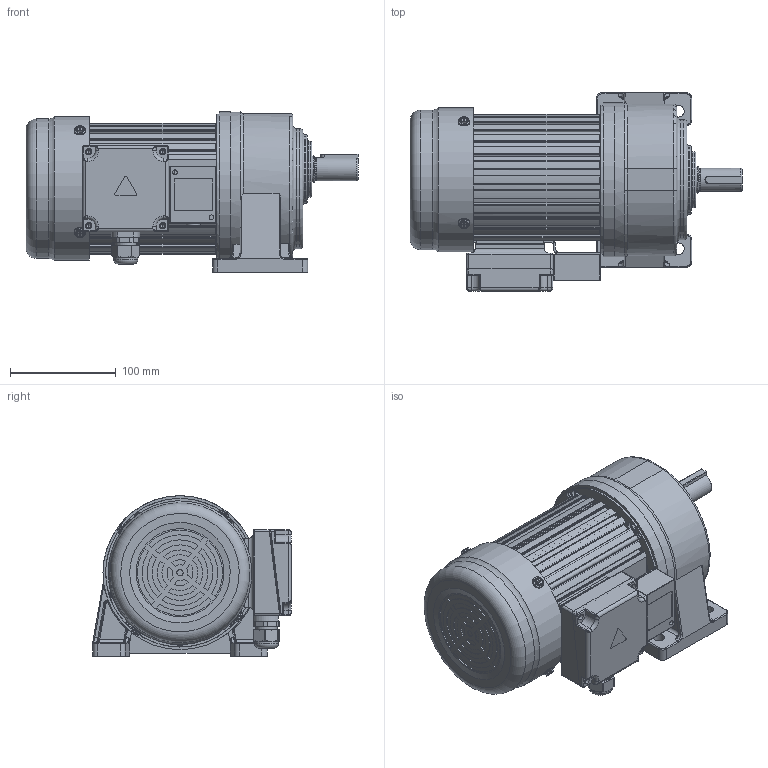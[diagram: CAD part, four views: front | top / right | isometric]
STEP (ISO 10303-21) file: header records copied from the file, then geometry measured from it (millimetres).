
FILE_DESCRIPTION(/* description */ (''),/* implementation_level */ '2;1');
FILE_NAME(/* name */ 'CH22-200-3～200外形多速比带刹车.stp',/* time_stamp */ '2025-05-02T10:03:31+08:00',/* author */ (''),/* organization */ (''),/* preprocessor_version */ 'ST-DEVELOPER v18.102',/* originating_system */ 'SIEMENS PLM Software NX 2027',/* authorisation */ '');
FILE_SCHEMA (('AP203_CONFIGURATION_CONTROLLED_3D_DESIGN_OF_MECHANICAL_PARTS_AND_ASSEMBLIES_MIM_LF { 1 0 10303 403 2 1 2}'));
Length unit declared in the file: millimetre
Products named in the file (1): CH22-200-3～200外形多速比带刹车_
objects
Bounding box: 313.8 x 187.75 x 151.75 mm (x, y, z)
Volume: 3685867.2 mm3; surface area: 375877.9 mm2
Topology: 24 solids, 24 shells, 3489 faces, 8976 edges, 5671 vertices
Faces by surface type: plane 1888, cylinder 932, cone 260, torus 191, bspline 98, extrusion 96, revolution 16, sphere 8
Full cylindrical faces by diameter (mm): 3 x1, 3.3 x4, 3.5 x1, 4.2 x12, 4.336 x2, 4.5 x2, 4.826 x2, 5 x4, 5.795 x5, 6 x5, 6.4 x4, 7 x4, 10 x5, 11 x13, 12.5 x1, 13 x1, 13.98 x1, 14.5 x1, 16 x3, 17 x2, 19.5 x1, 20 x3, 21 x1, 21.6 x1, 22 x1, 22.5 x1, 25 x1, 40 x1, 50 x1, 53 x1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
Entity records: 114554 total; most frequent: CARTESIAN_POINT 32826, ORIENTED_EDGE 17394, DIRECTION 15878, EDGE_CURVE 8697, VERTEX_POINT 5610, AXIS2_PLACEMENT_3D 5470, VECTOR 4922, LINE 4826
